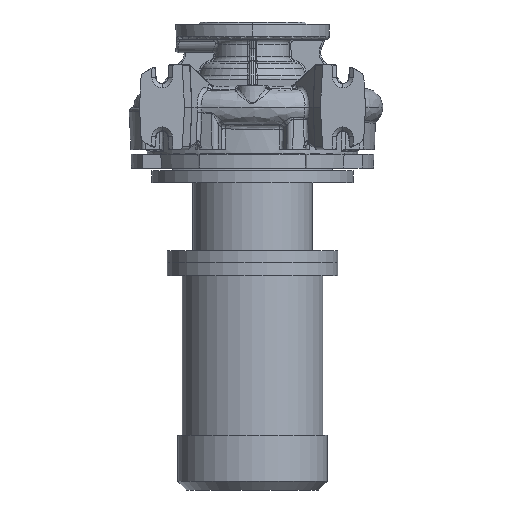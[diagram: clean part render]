
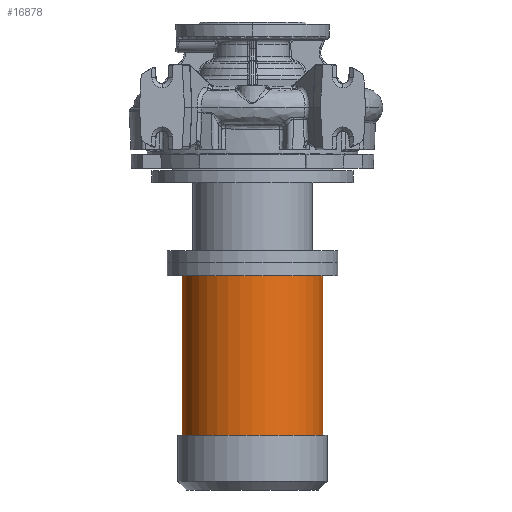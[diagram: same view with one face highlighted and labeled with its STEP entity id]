
A CAD part, front view. The second image highlights one B-rep face of the part: STEP entity #16878.
In plain terms, the highlighted cylindrical face has radius 82.5 mm (diameter 165 mm), a partial arc.
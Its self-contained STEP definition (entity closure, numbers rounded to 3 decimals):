
#1915 = CARTESIAN_POINT ( 'NONE',  ( 82.5, 0., -197.3 ) ) ;
#2516 = EDGE_LOOP ( 'NONE', ( #3158, #70584, #63136, #34816 ) ) ;
#3158 = ORIENTED_EDGE ( 'NONE', *, *, #14452, .F. ) ;
#3245 = AXIS2_PLACEMENT_3D ( 'NONE', #56373, #48929, #55783 ) ;
#5866 = AXIS2_PLACEMENT_3D ( 'NONE', #14504, #15392, #68691 ) ;
#7812 = CYLINDRICAL_SURFACE ( 'NONE', #3245, 82.5 ) ;
#9929 = CIRCLE ( 'NONE', #5866, 82.5 ) ;
#14452 = EDGE_CURVE ( 'NONE', #68580, #68919, #33983, .T. ) ;
#14504 = CARTESIAN_POINT ( 'NONE',  ( 0., 0., -197.3 ) ) ;
#14624 = CARTESIAN_POINT ( 'NONE',  ( 82.5, 0., -384.8 ) ) ;
#15392 = DIRECTION ( 'NONE',  ( 0., 0., -1. ) ) ;
#16878 = ADVANCED_FACE ( 'NONE', ( #38719 ), #7812, .T. ) ;
#19234 = VERTEX_POINT ( 'NONE', #22417 ) ;
#19935 = DIRECTION ( 'NONE',  ( 0., 0., -1. ) ) ;
#22417 = CARTESIAN_POINT ( 'NONE',  ( -82.5, 0., -197.3 ) ) ;
#26256 = EDGE_CURVE ( 'NONE', #19234, #53665, #38960, .T. ) ;
#26760 = DIRECTION ( 'NONE',  ( -1., 0., 0. ) ) ;
#33983 = LINE ( 'NONE', #53513, #88379 ) ;
#34816 = ORIENTED_EDGE ( 'NONE', *, *, #48931, .F. ) ;
#38719 = FACE_OUTER_BOUND ( 'NONE', #2516, .T. ) ;
#38960 = LINE ( 'NONE', #53400, #51763 ) ;
#48929 = DIRECTION ( 'NONE',  ( 0., 0., -1. ) ) ;
#48931 = EDGE_CURVE ( 'NONE', #68919, #53665, #58453, .T. ) ;
#51763 = VECTOR ( 'NONE', #87646, 1000. ) ;
#53400 = CARTESIAN_POINT ( 'NONE',  ( -82.5, 0., -448.8 ) ) ;
#53513 = CARTESIAN_POINT ( 'NONE',  ( 82.5, 0., -448.8 ) ) ;
#53665 = VERTEX_POINT ( 'NONE', #87852 ) ;
#55783 = DIRECTION ( 'NONE',  ( -1., 0., 0. ) ) ;
#56373 = CARTESIAN_POINT ( 'NONE',  ( 0., 0., -448.8 ) ) ;
#58453 = CIRCLE ( 'NONE', #82541, 82.5 ) ;
#63136 = ORIENTED_EDGE ( 'NONE', *, *, #26256, .T. ) ;
#68580 = VERTEX_POINT ( 'NONE', #1915 ) ;
#68691 = DIRECTION ( 'NONE',  ( -1., 0., 0. ) ) ;
#68919 = VERTEX_POINT ( 'NONE', #14624 ) ;
#70584 = ORIENTED_EDGE ( 'NONE', *, *, #80586, .T. ) ;
#80586 = EDGE_CURVE ( 'NONE', #68580, #19234, #9929, .T. ) ;
#82541 = AXIS2_PLACEMENT_3D ( 'NONE', #88075, #19935, #26760 ) ;
#87646 = DIRECTION ( 'NONE',  ( 0., 0., -1. ) ) ;
#87753 = DIRECTION ( 'NONE',  ( 0., 0., -1. ) ) ;
#87852 = CARTESIAN_POINT ( 'NONE',  ( -82.5, 0., -384.8 ) ) ;
#88075 = CARTESIAN_POINT ( 'NONE',  ( 0., 0., -384.8 ) ) ;
#88379 = VECTOR ( 'NONE', #87753, 1000. ) ;
